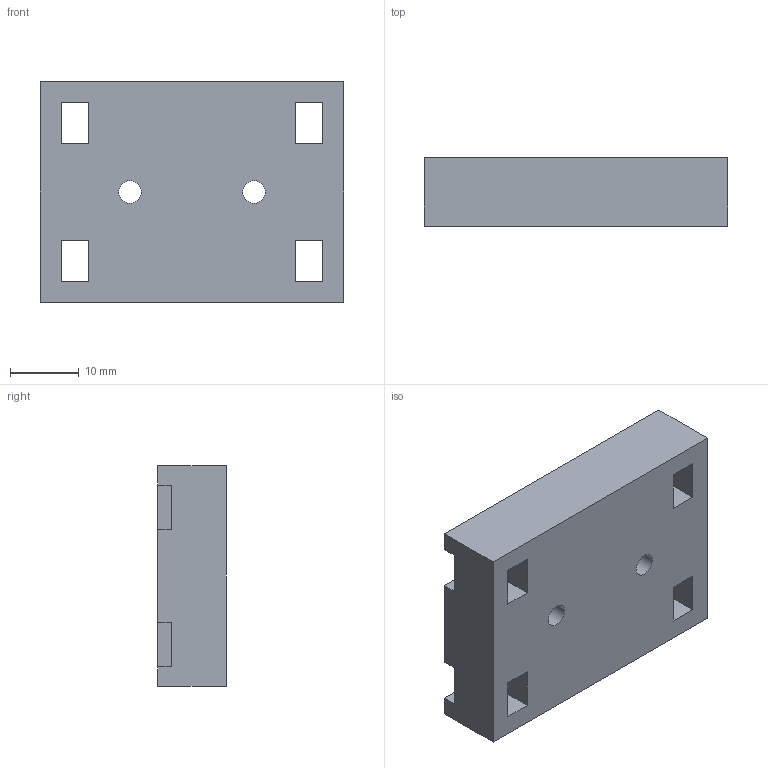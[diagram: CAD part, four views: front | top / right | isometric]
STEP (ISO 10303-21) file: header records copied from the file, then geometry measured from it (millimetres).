
FILE_DESCRIPTION(('Open CASCADE Model'),'2;1');
FILE_NAME('Open CASCADE Shape Model','2026-11-08T05:54:15',('Author'),( 'Open CASCADE'),'Open CASCADE STEP processor 7.8','Open CASCADE 7.8' ,'Unknown');
FILE_SCHEMA(('AUTOMOTIVE_DESIGN { 1 0 10303 214 1 1 1 1 }'));
Length unit declared in the file: millimetre
Products named in the file (1): Open CASCADE STEP translator 7.8 1
Bounding box: 44 x 10 x 32 mm (x, y, z)
Volume: 12782.5 mm3; surface area: 5069.1 mm2
Topology: 1 solids, 1 shells, 36 faces, 114 edges, 76 vertices
Faces by surface type: plane 34, cylinder 2
Full cylindrical faces by diameter (mm): 3.3 x2
Entity records: 2666 total; most frequent: CARTESIAN_POINT 547, DIRECTION 328, LINE 242, VECTOR 242, ORIENTED_EDGE 228, PCURVE 228, DEFINITIONAL_REPRESENTATION 228, EDGE_CURVE 114
